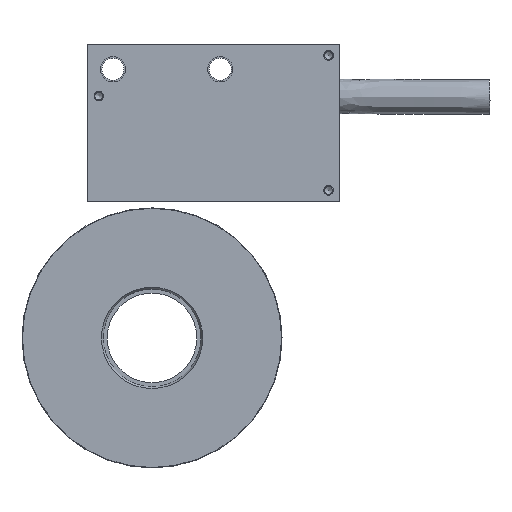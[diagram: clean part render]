
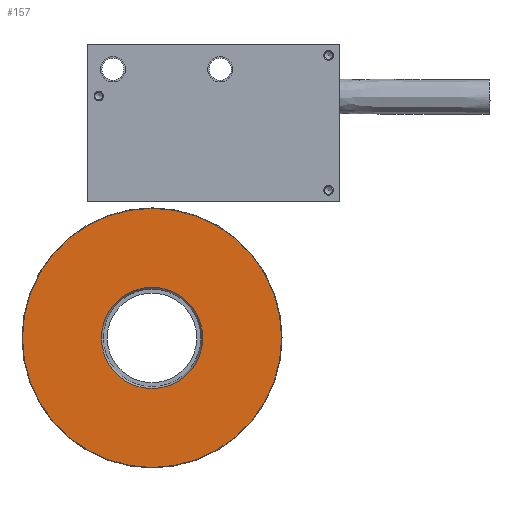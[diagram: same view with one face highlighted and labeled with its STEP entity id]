
A CAD part, front view. The second image highlights one B-rep face of the part: STEP entity #157.
In plain terms, the highlighted planar face has unit normal (0, -1, 0).
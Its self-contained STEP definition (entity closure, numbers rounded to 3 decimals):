
#157 = ADVANCED_FACE( '', ( #376, #377 ), #378, .T. );
#376 = FACE_OUTER_BOUND( '', #687, .T. );
#377 = FACE_BOUND( '', #688, .T. );
#378 = PLANE( '', #689 );
#687 = EDGE_LOOP( '', ( #1268 ) );
#688 = EDGE_LOOP( '', ( #1269 ) );
#689 = AXIS2_PLACEMENT_3D( '', #1270, #1271, #1272 );
#1268 = ORIENTED_EDGE( '', *, *, #1868, .F. );
#1269 = ORIENTED_EDGE( '', *, *, #1869, .T. );
#1270 = CARTESIAN_POINT( '', ( 10.2, 0., -1.05 ) );
#1271 = DIRECTION( '', ( 0., -1., 0. ) );
#1272 = DIRECTION( '', ( -1., 0., 0. ) );
#1868 = EDGE_CURVE( '', #2206, #2206, #2207, .T. );
#1869 = EDGE_CURVE( '', #2208, #2208, #2209, .T. );
#2206 = VERTEX_POINT( '', #2668 );
#2207 = CIRCLE( '', #2669, 20.55 );
#2208 = VERTEX_POINT( '', #2670 );
#2209 = CIRCLE( '', #2671, 8.034 );
#2668 = CARTESIAN_POINT( '', ( 30.75, 0., -21.6 ) );
#2669 = AXIS2_PLACEMENT_3D( '', #3096, #3097, #3098 );
#2670 = CARTESIAN_POINT( '', ( 18.234, 0., -21.6 ) );
#2671 = AXIS2_PLACEMENT_3D( '', #3099, #3100, #3101 );
#3096 = CARTESIAN_POINT( '', ( 10.2, 0., -21.6 ) );
#3097 = DIRECTION( '', ( 0., 1., 0. ) );
#3098 = DIRECTION( '', ( 1., 0., 0. ) );
#3099 = CARTESIAN_POINT( '', ( 10.2, 0., -21.6 ) );
#3100 = DIRECTION( '', ( 0., 1., 0. ) );
#3101 = DIRECTION( '', ( 1., 0., 0. ) );
